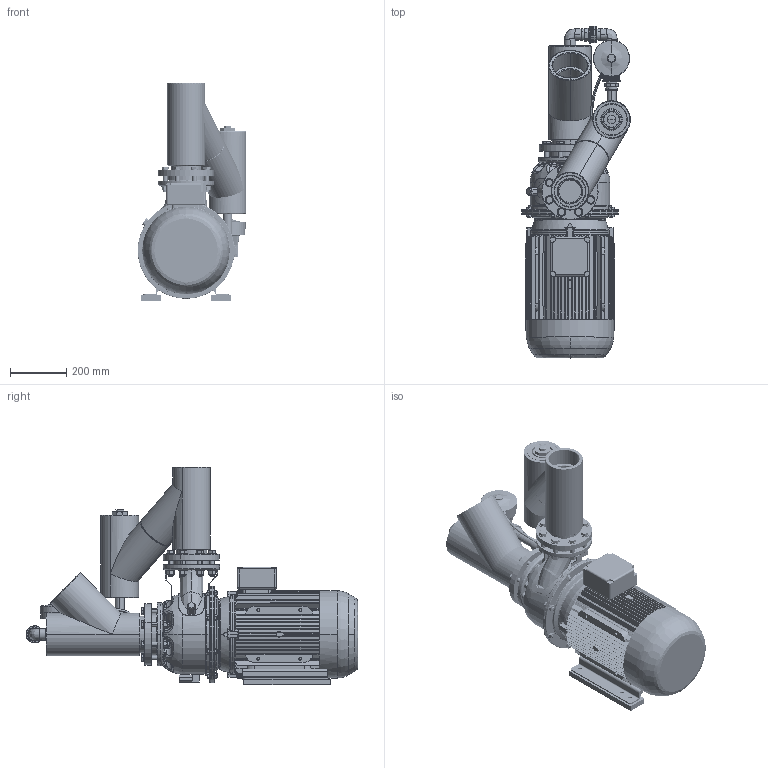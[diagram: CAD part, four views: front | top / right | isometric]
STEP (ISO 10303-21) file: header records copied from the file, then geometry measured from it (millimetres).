
FILE_DESCRIPTION (( 'STEP AP203' ), '1' );
FILE_NAME ('Lowara SHE 80-200 z.a.z auto. by-pass.STEP', '2011-04-08T08:43:44', ( '' ), ( '' ), 'SwSTEP 2.0', 'SolidWorks 2010', '' );
FILE_SCHEMA (( 'CONFIG_CONTROL_DESIGN' ));
Products named in the file (1): Lowara SHE 80-200 z.a.z auto. by-pass
Bounding box: 387.5 x 1184.26 x 776.57 mm (x, y, z)
Surface area: 4380737.4 mm2 (no closed solid volume)
Topology: 0 solids, 110 shells, 3626 faces, 8947 edges, 5586 vertices
Faces by surface type: plane 1347, cylinder 1064, cone 650, bspline 518, torus 47
Entity records: 148476 total; most frequent: CARTESIAN_POINT 67316, ORIENTED_EDGE 17703, DIRECTION 16063, EDGE_CURVE 8869, AXIS2_PLACEMENT_3D 6456, VERTEX_POINT 5587, EDGE_LOOP 4008, FACE_OUTER_BOUND 3627
